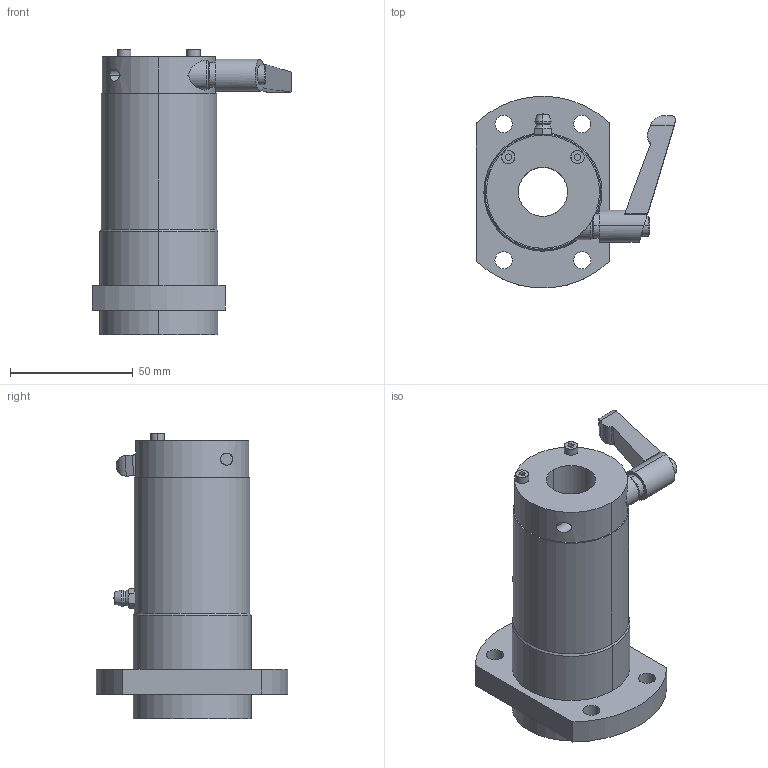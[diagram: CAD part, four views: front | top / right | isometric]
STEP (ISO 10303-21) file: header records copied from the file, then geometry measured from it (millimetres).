
FILE_DESCRIPTION (( 'STEP AP214' ), '1' );
FILE_NAME ('LFWB20-C.STEP', '2023-06-27T02:20:35', ( '' ), ( '' ), 'SwSTEP 2.0', 'SolidWorks 2019', '' );
FILE_SCHEMA (( 'AUTOMOTIVE_DESIGN' ));
Length unit declared in the file: millimetre
Products named in the file (3): LFWB20; “ÁSCK2015CO-S3.4; LFWB20-C
Assembly tree (2 placements, depth 2):
  LFWB20-C
    LFWB20
    “ÁSCK2015CO-S3.4
Bounding box: 80.9 x 77.86 x 116 mm (x, y, z)
Volume: 183850.1 mm3; surface area: 44518.9 mm2
Topology: 3 solids, 9 shells, 234 faces, 570 edges, 358 vertices
Faces by surface type: cylinder 85, plane 68, bspline 47, cone 22, torus 8, sphere 4
Entity records: 10149 total; most frequent: CARTESIAN_POINT 2276, DIRECTION 1174, ORIENTED_EDGE 1124, EDGE_CURVE 562, AXIS2_PLACEMENT_3D 486, VERTEX_POINT 354, CIRCLE 294, EDGE_LOOP 282
